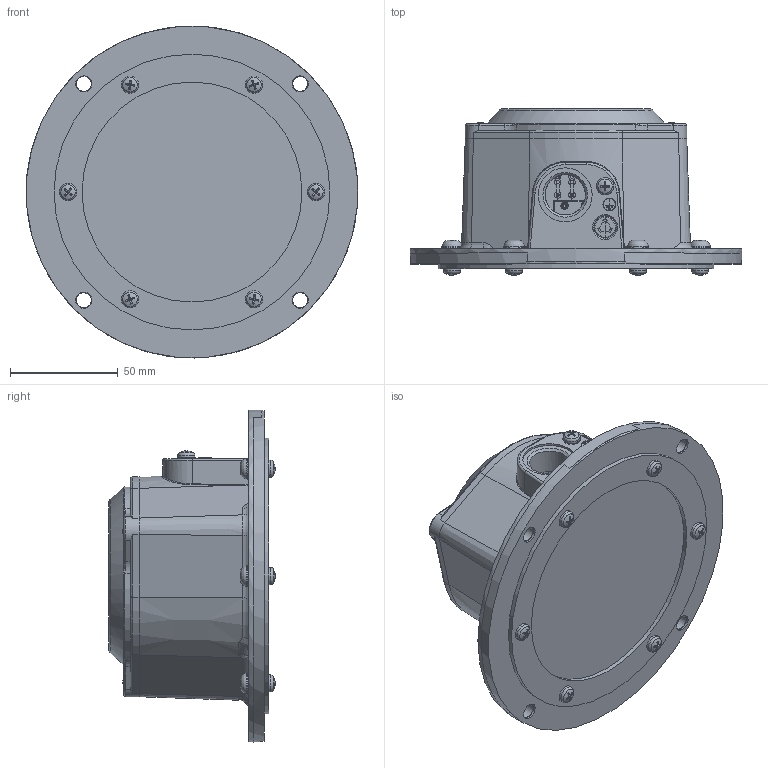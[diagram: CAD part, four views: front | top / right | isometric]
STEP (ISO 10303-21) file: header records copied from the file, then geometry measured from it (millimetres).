
FILE_DESCRIPTION(/* description */ ('MN21F'),/* implementation_level */ '2;1');
FILE_NAME(/* name */ 'MN21F.stp',/* time_stamp */ '2023-11-02T11:24:43+01:00',/* author */ ('Stefano Padovani'),/* organization */ ('CAMLogic Srl'),/* preprocessor_version */ 'ST-DEVELOPER v20',/* originating_system */ 'Autodesk Inventor 2024',/* authorisation */ '');
FILE_SCHEMA (('AUTOMOTIVE_DESIGN { 1 0 10303 214 3 1 1 }'));
Products named in the file (1): MN21F_Semplificato
Bounding box: 153.97 x 77.17 x 154.03 mm (x, y, z)
Volume: 294197.8 mm3; surface area: 116432.8 mm2
Topology: 4 solids, 4 shells, 1489 faces, 3903 edges, 2449 vertices
Faces by surface type: plane 428, cylinder 379, bspline 223, cone 218, torus 211, sphere 30
Full cylindrical faces by diameter (mm): 1.3 x2, 1.5 x22, 1.6 x2, 2 x2, 2.3 x1, 2.5 x2, 3 x3, 3.3 x7, 4 x1, 4.5 x1, 4.65 x1, 5.2 x1, 5.5 x1, 6 x1, 7 x4, 7.5 x4, 8.5 x1, 9 x4, 9.167 x1, 10 x4, 10.5 x1, 10.8 x3, 18.7 x1, 25 x1, 82 x1, 102 x1, 125 x1, 128 x1, 154 x1
Entity records: 69090 total; most frequent: CARTESIAN_POINT 32349, ORIENTED_EDGE 7736, DIRECTION 6972, EDGE_CURVE 3868, AXIS2_PLACEMENT_3D 2814, VERTEX_POINT 2449, EDGE_LOOP 1649, FACE_OUTER_BOUND 1489
